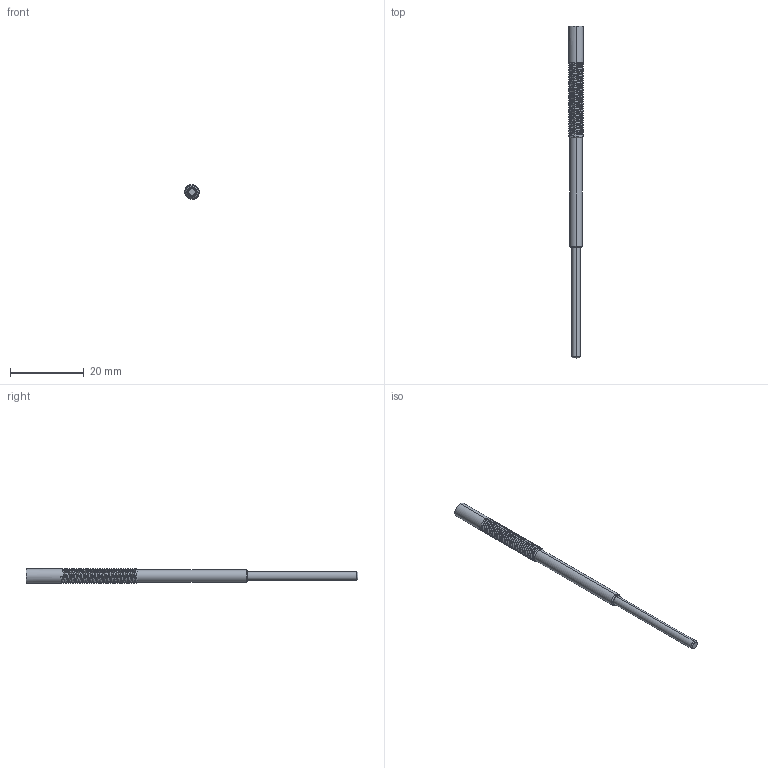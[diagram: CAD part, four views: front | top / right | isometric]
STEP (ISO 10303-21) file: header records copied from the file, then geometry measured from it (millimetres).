
FILE_DESCRIPTION (( 'STEP AP203' ), '1' );
FILE_NAME ('酗階裝2.STEP', '2024-05-31T01:55:32', ( '' ), ( '' ), 'SwSTEP 2.0', 'SolidWorks 2024', '' );
FILE_SCHEMA (( 'CONFIG_CONTROL_DESIGN' ));
Length unit declared in the file: millimetre
Products named in the file (1): 长顶杆2
Bounding box: 4 x 90 x 4 mm (x, y, z)
Volume: 725.7 mm3; surface area: 1091.4 mm2
Topology: 1 solids, 1 shells, 90 faces, 248 edges, 162 vertices
Faces by surface type: cylinder 69, plane 12, cone 6, bspline 3
Entity records: 6514 total; most frequent: CARTESIAN_POINT 4546, ORIENTED_EDGE 496, DIRECTION 305, EDGE_CURVE 248, VERTEX_POINT 162, AXIS2_PLACEMENT_3D 105, LINE 95, VECTOR 95
